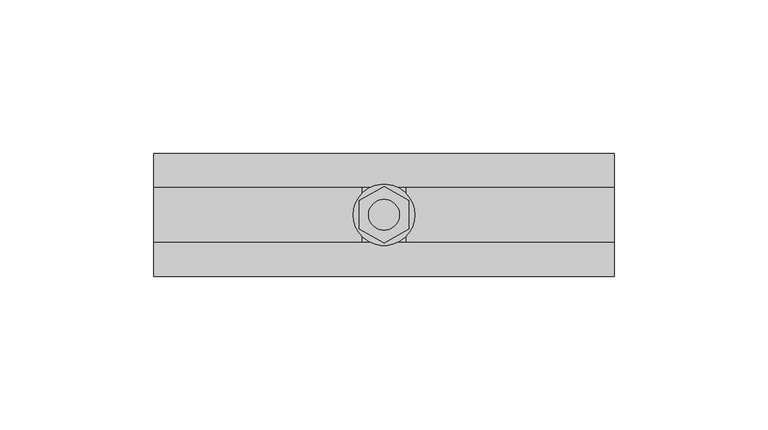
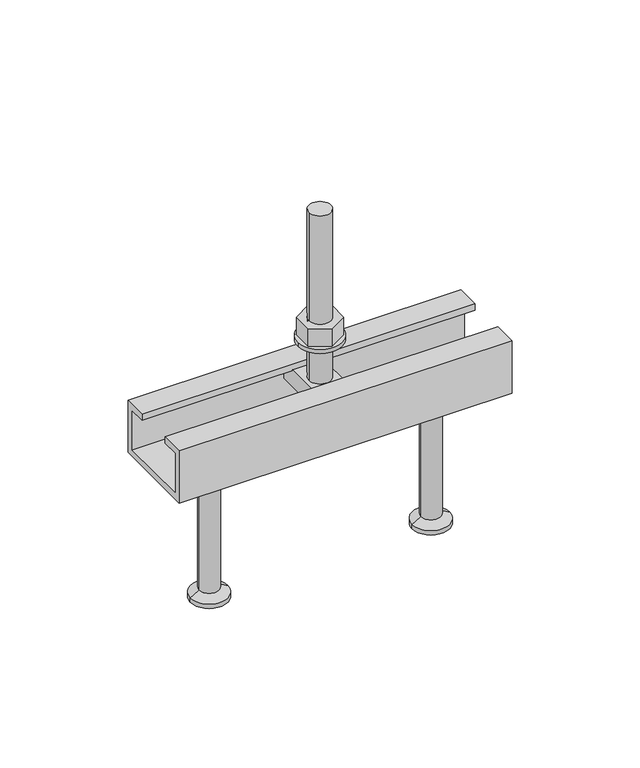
"""IFC4 building model written with IfcOpenShell, lengths in millimetres: fastener geometry, JTA-K JORDAHL® AnchorChannels : JTA-K L=150 mm."""

from ifc_helpers import new_model, si_unit, point, frame, frame_2d, origin, place, context, project, spatial, polyline, circle_curve, trimmed, segment, composite_curve, outline, extrude, source, transform, mapped, element, save
from ifc_brep_helpers import plane_surface, cylinder_surface, revolved_surface, advanced_brep


def fastener_27162e01(model_context):
    return source(origin(), model_context, "Body", "SolidModel", [
        extrude(outline(polyline([(75.0, -9.2376043), (67.0, -4.6188022), (67.0, 4.6188022), (75.0, 9.2376043), (83.0, 4.6188022), (83.0, -4.6188022), (75.0, -9.2376043)]), holes=[composite_curve([segment(trimmed(circle_curve(frame_2d((75.0, 0.0)), 5.0), [point((70.0, 0.0))], [point((80.0, 0.0))], True, "CARTESIAN"), True, "CONTINUOUS"), segment(trimmed(circle_curve(frame_2d((75.0, 0.0)), 5.0), [point((80.0, 0.0))], [point((70.0, 0.0))], True, "CARTESIAN"), True, "CONTINUOUS")], self_intersect=False)]), frame((0.0, 0.0, 17.0), z_axis=(0.0, 0.0, 1.0), x_axis=(1.0, 0.0, 0.0)), (0.0, 0.0, 1.0), 8.4),
        extrude(outline(composite_curve([segment(trimmed(circle_curve(frame_2d((75.0, 0.0)), 10.0), [point((65.0, 0.0))], [point((85.0, 0.0))], False, "CARTESIAN"), True, "CONTINUOUS"), segment(trimmed(circle_curve(frame_2d((75.0, 0.0)), 10.0), [point((85.0, 0.0))], [point((65.0, 0.0))], False, "CARTESIAN"), True, "CONTINUOUS")], self_intersect=False), holes=[composite_curve([segment(trimmed(circle_curve(frame_2d((75.0, 0.0)), 5.25), [point((69.75, 0.0))], [point((80.25, 0.0))], True, "CARTESIAN"), True, "CONTINUOUS"), segment(trimmed(circle_curve(frame_2d((75.0, 0.0)), 5.25), [point((80.25, 0.0))], [point((69.75, 0.0))], True, "CARTESIAN"), True, "CONTINUOUS")], self_intersect=False)]), frame((0.0, 0.0, 15.0), z_axis=(0.0, 0.0, 1.0), x_axis=(1.0, 0.0, 0.0)), (0.0, 0.0, 1.0), 2.0),
        advanced_brep(
        [(82.0, -16.0, -3.0), (82.0, -16.0, -11.0), (82.0, 16.0, -11.0), (82.0, 16.0, -3.0), (68.0, -16.0, -3.0), (68.0, 16.0, -3.0), (68.0, 16.0, -11.0), (68.0, -16.0, -11.0), (80.0, 0.0, -3.0), (70.0, 0.0, -3.0), (70.0, 0.0, 77.0), (80.0, 0.0, 77.0)],
        [
            (0, 1),
            (1, 2),
            (2, 3),
            (3, 0),
            (4, 5),
            (5, 6),
            (6, 7),
            (7, 4),
            (3, 5),
            (4, 0),
            (8, 9, circle_curve(frame((75.0, 0.0, -3.0), z_axis=(0.0, 0.0, -1.0), x_axis=(1.0, 0.0, 0.0)), 5.0)),
            (9, 8, circle_curve(frame((75.0, 0.0, -3.0), z_axis=(0.0, 0.0, -1.0), x_axis=(1.0, 0.0, 0.0)), 5.0)),
            (2, 6),
            (1, 7),
            (10, 11, circle_curve(frame((75.0, 0.0, 77.0), z_axis=(0.0, 0.0, 1.0), x_axis=(1.0, 0.0, 0.0)), 5.0)),
            (11, 10, circle_curve(frame((75.0, 0.0, 77.0), z_axis=(0.0, 0.0, 1.0), x_axis=(1.0, 0.0, 0.0)), 5.0)),
            (11, 8),
            (9, 10),
        ],
        [
            plane_surface(frame((82.0, 16.0, -3.0), z_axis=(1.0, 0.0, 0.0), x_axis=(0.0, 1.0, 0.0))),
            plane_surface(frame((68.0, 16.0, -3.0), z_axis=(-1.0, 0.0, 0.0), x_axis=(0.0, -1.0, 0.0))),
            plane_surface(frame((82.0, -16.0, -3.0), z_axis=(0.0, 0.0, 1.0), x_axis=(-1.0, 0.0, 0.0))),
            plane_surface(frame((82.0, 16.0, -3.0), z_axis=(0.0, 1.0, 0.0), x_axis=(-1.0, 0.0, 0.0))),
            plane_surface(frame((82.0, 16.0, -11.0), z_axis=(0.0, 0.0, -1.0), x_axis=(-1.0, 0.0, 0.0))),
            plane_surface(frame((82.0, -16.0, -11.0), z_axis=(0.0, -1.0, 0.0), x_axis=(-1.0, 0.0, 0.0))),
            plane_surface(frame((80.0, 0.0, 77.0), z_axis=(0.0, 0.0, 1.0), x_axis=(0.0, -1.0, 0.0))),
            cylinder_surface(frame((75.0, 0.0, -3.0), z_axis=(0.0, 0.0, 1.0), x_axis=(1.0, 0.0, 0.0)), 5.0),
        ],
        [
            (0, [[1, 2, 3, 4]]),
            (1, [[5, 6, 7, 8]]),
            (2, [[9, -5, 10, -4], [11, 12]]),
            (3, [[13, -6, -9, -3]]),
            (4, [[14, -7, -13, -2]]),
            (5, [[-10, -8, -14, -1]]),
            (6, [[15, 16]]),
            (7, [[17, -12, 18, -16]]),
            (7, [[-18, -11, -17, -15]]),
        ],
    ),
        advanced_brep(
        [(125.0, 0.0, -25.0), (111.5, 0.0, -25.0), (138.5, 0.0, -25.0), (116.5, 0.0, -90.0), (125.0, 0.0, -90.0), (133.5, 0.0, -90.0), (116.5, 0.0, -88.0), (133.5, 0.0, -88.0), (120.5, 0.0, -85.6905989), (129.5, 0.0, -85.6905989), (120.5, 0.0, -27.5), (129.5, 0.0, -27.5)],
        [
            (0, 1),
            (1, 2, circle_curve(frame((125.0, 0.0, -25.0), z_axis=(0.0, 0.0, 1.0), x_axis=(1.0, 0.0, 0.0)), 13.5)),
            (2, 0),
            (2, 1, circle_curve(frame((125.0, 0.0, -25.0), z_axis=(0.0, 0.0, 1.0), x_axis=(1.0, 0.0, 0.0)), 13.5)),
            (3, 4),
            (4, 5),
            (5, 3, circle_curve(frame((125.0, 0.0, -90.0), z_axis=(0.0, 0.0, -1.0), x_axis=(1.0, 0.0, 0.0)), 8.5)),
            (3, 5, circle_curve(frame((125.0, 0.0, -90.0), z_axis=(0.0, 0.0, -1.0), x_axis=(1.0, 0.0, 0.0)), 8.5)),
            (6, 3),
            (5, 7),
            (7, 6, circle_curve(frame((125.0, 0.0, -88.0), z_axis=(0.0, 0.0, -1.0), x_axis=(1.0, 0.0, 0.0)), 8.5)),
            (6, 7, circle_curve(frame((125.0, 0.0, -88.0), z_axis=(0.0, 0.0, -1.0), x_axis=(1.0, 0.0, 0.0)), 8.5)),
            (8, 6),
            (7, 9),
            (9, 8, circle_curve(frame((125.0, 0.0, -85.6905989), z_axis=(0.0, 0.0, -1.0), x_axis=(1.0, 0.0, 0.0)), 4.5)),
            (8, 9, circle_curve(frame((125.0, 0.0, -85.6905989), z_axis=(0.0, 0.0, -1.0), x_axis=(1.0, 0.0, 0.0)), 4.5)),
            (10, 8),
            (9, 11),
            (11, 10, circle_curve(frame((125.0, 0.0, -27.5), z_axis=(0.0, 0.0, -1.0), x_axis=(1.0, 0.0, 0.0)), 4.5)),
            (10, 11, circle_curve(frame((125.0, 0.0, -27.5), z_axis=(0.0, 0.0, -1.0), x_axis=(1.0, 0.0, 0.0)), 4.5)),
            (1, 10),
            (11, 2),
        ],
        [
            plane_surface(frame((125.0, 0.0, -25.0), z_axis=(0.0, 0.0, 1.0), x_axis=(1.0, 0.0, 0.0))),
            plane_surface(frame((125.0, 0.0, -90.0), z_axis=(0.0, 0.0, -1.0), x_axis=(1.0, 0.0, 0.0))),
            cylinder_surface(frame((125.0, 0.0, 2279.3150031), z_axis=(0.0, 0.0, 1.0), x_axis=(1.0, 0.0, 0.0)), 8.5),
            revolved_surface(polyline([(133.5, 0.0, -88.0), (129.5, 0.0, -85.6905989)]), (125.0, 0.0, 2279.3150031), (0.0, 0.0, 1.0)),
            cylinder_surface(frame((125.0, 0.0, 2279.3150031), z_axis=(0.0, 0.0, 1.0), x_axis=(1.0, 0.0, 0.0)), 4.5),
            revolved_surface(polyline([(129.5, 0.0, -27.5), (138.5, 0.0, -25.0)]), (125.0, 0.0, 2279.3150031), (0.0, 0.0, 1.0)),
        ],
        [
            (0, [[1, 2, 3]]),
            (0, [[-3, 4, -1]]),
            (1, [[5, 6, 7]]),
            (1, [[-6, -5, 8]]),
            (2, [[9, -7, 10, 11]]),
            (2, [[-10, -8, -9, 12]]),
            (3, [[13, -11, 14, 15]]),
            (3, [[-14, -12, -13, 16]]),
            (4, [[17, -15, 18, 19]]),
            (4, [[-18, -16, -17, 20]]),
            (5, [[21, -19, 22, -2]]),
            (5, [[-22, -20, -21, -4]]),
        ],
    ),
        advanced_brep(
        [(25.0, 0.0, -25.0), (11.5, 0.0, -25.0), (38.5, 0.0, -25.0), (16.5, 0.0, -90.0), (25.0, 0.0, -90.0), (33.5, 0.0, -90.0), (16.5, 0.0, -88.0), (33.5, 0.0, -88.0), (20.5, 0.0, -85.6905989), (29.5, 0.0, -85.6905989), (20.5, 0.0, -27.5), (29.5, 0.0, -27.5)],
        [
            (0, 1),
            (1, 2, circle_curve(frame((25.0, 0.0, -25.0), z_axis=(0.0, 0.0, 1.0), x_axis=(1.0, 0.0, 0.0)), 13.5)),
            (2, 0),
            (2, 1, circle_curve(frame((25.0, 0.0, -25.0), z_axis=(0.0, 0.0, 1.0), x_axis=(1.0, 0.0, 0.0)), 13.5)),
            (3, 4),
            (4, 5),
            (5, 3, circle_curve(frame((25.0, 0.0, -90.0), z_axis=(0.0, 0.0, -1.0), x_axis=(1.0, 0.0, 0.0)), 8.5)),
            (3, 5, circle_curve(frame((25.0, 0.0, -90.0), z_axis=(0.0, 0.0, -1.0), x_axis=(1.0, 0.0, 0.0)), 8.5)),
            (6, 3),
            (5, 7),
            (7, 6, circle_curve(frame((25.0, 0.0, -88.0), z_axis=(0.0, 0.0, -1.0), x_axis=(1.0, 0.0, 0.0)), 8.5)),
            (6, 7, circle_curve(frame((25.0, 0.0, -88.0), z_axis=(0.0, 0.0, -1.0), x_axis=(1.0, 0.0, 0.0)), 8.5)),
            (8, 6),
            (7, 9),
            (9, 8, circle_curve(frame((25.0, 0.0, -85.6905989), z_axis=(0.0, 0.0, -1.0), x_axis=(1.0, 0.0, 0.0)), 4.5)),
            (8, 9, circle_curve(frame((25.0, 0.0, -85.6905989), z_axis=(0.0, 0.0, -1.0), x_axis=(1.0, 0.0, 0.0)), 4.5)),
            (10, 8),
            (9, 11),
            (11, 10, circle_curve(frame((25.0, 0.0, -27.5), z_axis=(0.0, 0.0, -1.0), x_axis=(1.0, 0.0, 0.0)), 4.5)),
            (10, 11, circle_curve(frame((25.0, 0.0, -27.5), z_axis=(0.0, 0.0, -1.0), x_axis=(1.0, 0.0, 0.0)), 4.5)),
            (1, 10),
            (11, 2),
        ],
        [
            plane_surface(frame((25.0, 0.0, -25.0), z_axis=(0.0, 0.0, 1.0), x_axis=(1.0, 0.0, 0.0))),
            plane_surface(frame((25.0, 0.0, -90.0), z_axis=(0.0, 0.0, -1.0), x_axis=(1.0, 0.0, 0.0))),
            cylinder_surface(frame((25.0, 0.0, 2279.3150031), z_axis=(0.0, 0.0, 1.0), x_axis=(1.0, 0.0, 0.0)), 8.5),
            revolved_surface(polyline([(33.5, 0.0, -88.0), (29.5, 0.0, -85.6905989)]), (25.0, 0.0, 2279.3150031), (0.0, 0.0, 1.0)),
            cylinder_surface(frame((25.0, 0.0, 2279.3150031), z_axis=(0.0, 0.0, 1.0), x_axis=(1.0, 0.0, 0.0)), 4.5),
            revolved_surface(polyline([(29.5, 0.0, -27.5), (38.5, 0.0, -25.0)]), (25.0, 0.0, 2279.3150031), (0.0, 0.0, 1.0)),
        ],
        [
            (0, [[1, 2, 3]]),
            (0, [[-3, 4, -1]]),
            (1, [[5, 6, 7]]),
            (1, [[-6, -5, 8]]),
            (2, [[9, -7, 10, 11]]),
            (2, [[-10, -8, -9, 12]]),
            (3, [[13, -11, 14, 15]]),
            (3, [[-14, -12, -13, 16]]),
            (4, [[17, -15, 18, 19]]),
            (4, [[-18, -16, -17, 20]]),
            (5, [[21, -19, 22, -2]]),
            (5, [[-22, -20, -21, -4]]),
        ],
    ),
        extrude(outline(polyline([(-20.0, 0.0), (-9.0, 0.0), (-9.0, -3.0), (-17.0, -3.0), (-17.0, -22.0), (17.0, -22.0), (17.0, -3.0), (9.0, -3.0), (9.0, 0.0), (20.0, 0.0), (20.0, -25.0), (-20.0, -25.0), (-20.0, 0.0)])), frame((0.0, 0.0, 0.0), z_axis=(1.0, 0.0, 0.0), x_axis=(0.0, 1.0, 0.0)), (0.0, 0.0, 1.0), 150.0),
    ])


if __name__ == "__main__":
    model = new_model("IFC4")
    model_context = context("Model", 3, world=origin())
    ifc_project = project(units=[si_unit("LENGTHUNIT", "METRE", prefix="MILLI")], contexts=[model_context])
    site = spatial("IfcSite", under=ifc_project)
    building = spatial("IfcBuilding", under=site)
    placement = place(None, origin())
    fastener_shape = fastener_27162e01(model_context)
    element("IfcFastener", 1, ObjectType="JTA-K JORDAHL® AnchorChannels : JTA-K L=150 mm", at=placement, inside=building, context=model_context, shape_type="MappedRepresentation", body=[
        mapped(fastener_shape, transform((0.0, 0.0, 0.0), x_axis=(1.0, 0.0, 0.0), y_axis=(0.0, 1.0, 0.0), z_axis=(0.0, 0.0, 1.0))),
    ])
    save(model, "model.ifc")
